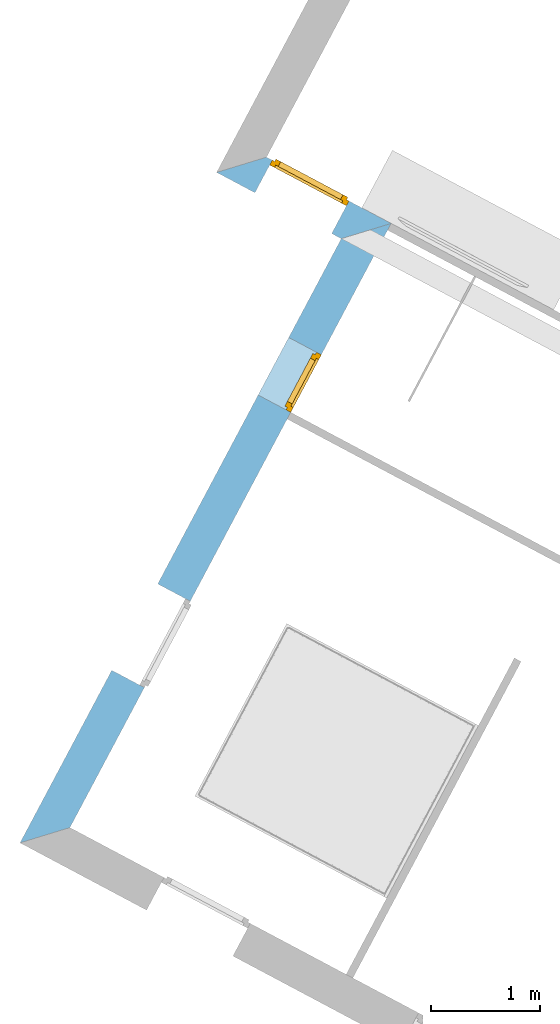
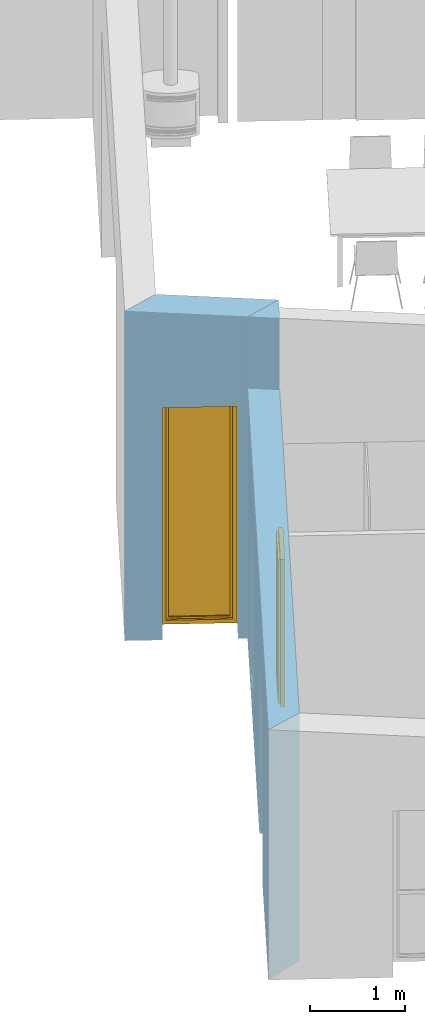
# One storey, part 8 of 27: 2 windows, 3 openings, plus 2 elements that do not belong to this part.
"""IFC2X3 building model written with IfcOpenShell, lengths in metres."""

from ifc_helpers import new_model, entity, si_unit, converted_unit, derived_unit, money_unit, direction, frame, origin_with_axes, origin_2d_with_axis, place, context, subcontext, project, spatial, polyline, rectangle, outline, extrude, clip, halfspace, bounded_halfspace, open_shell, faceted_brep, surface_model, material, layer, layer_set, layer_usage, type_object, element, fill, save


model = new_model("IFC2X3")

# Units and contexts
model_context = context("Model", 3, precision=1e-05, world=origin_with_axes(), true_north=direction((0.0, 1.0)))
body_context = subcontext(model_context, "Body", "Model", "MODEL_VIEW")
ifc_project = project(units=[si_unit("LENGTHUNIT", "METRE"), si_unit("AREAUNIT", "SQUARE_METRE"), si_unit("VOLUMEUNIT", "CUBIC_METRE"), converted_unit("PLANEANGLEUNIT", "DEGREE", entity("IfcPlaneAngleMeasure", 0.0174532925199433), si_unit("PLANEANGLEUNIT", "RADIAN"), dimensions=[0, 0, 0, 0, 0, 0, 0]), money_unit("CHF"), converted_unit("TIMEUNIT", "Year", entity("IfcTimeMeasure", 31557600.0), si_unit("TIMEUNIT", "SECOND"), dimensions=[0, 0, 1, 0, 0, 0, 0]), si_unit("MASSUNIT", "GRAM", prefix="KILO"), si_unit("THERMODYNAMICTEMPERATUREUNIT", "DEGREE_CELSIUS"), si_unit("LUMINOUSINTENSITYUNIT", "LUMEN"), si_unit("ENERGYUNIT", "JOULE", prefix="MEGA"), derived_unit("THERMALCONDUCTANCEUNIT", [(si_unit("POWERUNIT", "WATT"), 1), (si_unit("LENGTHUNIT", "METRE"), -1), (si_unit("THERMODYNAMICTEMPERATUREUNIT", "KELVIN"), -1)]), derived_unit("SPECIFICHEATCAPACITYUNIT", [(si_unit("ENERGYUNIT", "JOULE"), 1), (si_unit("MASSUNIT", "GRAM", prefix="KILO"), -1), (si_unit("THERMODYNAMICTEMPERATUREUNIT", "KELVIN"), -1)]), derived_unit("MASSDENSITYUNIT", [(si_unit("MASSUNIT", "GRAM", prefix="KILO"), 1), (si_unit("VOLUMEUNIT", "CUBIC_METRE"), -1)])], contexts=[model_context])

# Site, building, storey
site_placement = place(None, frame((0.0, 0.0, 0.0), z_axis=(0.0, 0.0, 1.0), x_axis=(-0.4694715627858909, -0.8829475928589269, 0.0)))
site = spatial("IfcSite", under=ifc_project, at=site_placement, Name="Site", CompositionType="ELEMENT")
building_placement = place(site_placement, origin_with_axes())
building = spatial("IfcBuilding", under=site, at=building_placement, Name="Bâtiment", CompositionType="ELEMENT")
storey_placement = place(building_placement, origin_with_axes())
storey = spatial("IfcBuildingStorey", under=building, at=storey_placement, Name="RDC", CompositionType="ELEMENT", Elevation=0.0)

# Wall, openings, window
ifc_material_1 = material(Name="Maçonnerie 290464332")
ifc_layer_1 = layer(ifc_material_1, 0.2, ventilated="UNKNOWN")
ifc_material_2 = material(Name="Isolation 272048125")
ifc_layer_2 = layer(ifc_material_2, 0.14, ventilated="UNKNOWN")
ifc_layer_set = layer_set([ifc_layer_1, ifc_layer_2], Name="MUR EXT 34 0024849982")
ifc_layer_usage_1 = layer_usage(ifc_layer_set, "AXIS2", "NEGATIVE", 0.0)
wall_type = type_object("IfcWallType", Name="MUR EXT 34 0024849982 340", PredefinedType="NOTDEFINED")
wall_1_placement = place(storey_placement, frame((149.8295710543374, -835.89459910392, 0.0), z_axis=(0.0, 0.0, 1.0), x_axis=(-1.0, 0.0, 0.0)))
wall_1 = element("IfcWallStandardCase", 1, at=wall_1_placement, inside=storey, type_object=wall_type, material=ifc_layer_usage_1, Name="Mur-394", context=body_context, shape_type="Clipping", body=[
    clip(clip(clip(extrude(outline(polyline([(0.3400000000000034, -0.3400000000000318), (6.640000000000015, -0.3400000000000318), (6.300000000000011, 0.0), (0.0, 0.0), (0.3400000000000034, -0.3400000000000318)])), origin_with_axes(), (0.0, 0.0, 1.0), 5.0), bounded_halfspace(frame((0.0, -0.2565977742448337, 3.207472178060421), z_axis=(0.0, 0.07974522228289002, -0.9968152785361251), x_axis=(0.0, 0.9968152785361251, 0.07974522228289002)), True, origin_with_axes(), polyline([(-0.1000099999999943, -0.3500000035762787), (6.300000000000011, -0.3500000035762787), (6.300000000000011, 0.01), (-0.1000099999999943, 0.01), (-0.1000099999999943, -0.3500000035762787)]))), bounded_halfspace(frame((0.0, -0.2565977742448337, 3.207472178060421), z_axis=(0.0, 0.07974522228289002, -0.9968152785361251), x_axis=(0.0, 0.9968152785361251, 0.07974522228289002)), True, origin_with_axes(), polyline([(-0.1000099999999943, -0.3500000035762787), (6.300000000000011, -0.3500000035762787), (6.300000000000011, 0.01), (-0.1000099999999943, 0.01), (-0.1000099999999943, -0.3500000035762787)]))), bounded_halfspace(frame((0.0, -0.32972972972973, 4.121621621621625), z_axis=(0.0, 0.07974522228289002, -0.9968152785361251), x_axis=(0.0, 0.9968152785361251, 0.07974522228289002)), True, origin_with_axes(), polyline([(6.200000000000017, -0.3500000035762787), (16.24001000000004, -0.3500000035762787), (16.24001000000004, 0.01), (6.200000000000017, 0.01), (6.200000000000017, -0.3500000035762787)]))),
])
opening_1_placement = place(wall_1_placement, frame((4.9700049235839, 0.0, 0.25), z_axis=(0.0, 0.0, 1.0), x_axis=(1.0, 0.0, 0.0)))
opening_1 = element("IfcOpeningElement", 2, at=opening_1_placement, cuts=wall_1, Name="Fen-156", context=body_context, shape_type="SweptSolid", body=[
    extrude(rectangle(XDim=0.6000000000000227, YDim=1.9, at=origin_2d_with_axis()), frame((0.0, 0.3400000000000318, 0.95), z_axis=(0.0, 1.0, 0.0), x_axis=(1.0, 0.0, 0.0)), (0.0, 0.0, -1.0), 1.02),
])
opening_2_placement = place(wall_1_placement, frame((2.250000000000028, 0.0, 0.0), z_axis=(0.0, 0.0, 1.0), x_axis=(1.0, 0.0, 0.0)))
element("IfcOpeningElement", 3, at=opening_2_placement, cuts=wall_1, Name="Fen-155", context=body_context, shape_type="SweptSolid", body=[
    extrude(rectangle(XDim=0.8999999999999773, YDim=2.15, at=origin_2d_with_axis()), frame((0.0, 0.3400000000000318, 1.075), z_axis=(0.0, -1.0, 0.0), x_axis=(1.0, 0.0, 0.0)), (0.0, 0.0, 1.0), 1.02),
])
window_style_1 = type_object("IfcWindowStyle", Name="Fen à carreaux 10", ConstructionType="NOTDEFINED", OperationType="SINGLE_PANEL", ParameterTakesPrecedence=False, Sizeable=False)
window_1_placement = place(opening_1_placement, frame((0.3000000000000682, 0.0, 0.0), z_axis=(0.0, 0.0, 1.0), x_axis=(-1.0, 0.0, 0.0)))
window_1 = element("IfcWindow", 4, at=window_1_placement, inside=storey, type_object=window_style_1, Name="Fen-156", OverallHeight=1.9, OverallWidth=0.6, context=body_context, shape_type="SurfaceModel", body=[
    faceted_brep([(0.575000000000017, 0.2900000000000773, 1.85), (0.6000000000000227, 0.2900000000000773, 1.85), (0.6000000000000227, 0.3400000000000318, 1.85), (0.5500000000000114, 0.3400000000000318, 1.85), (0.5500000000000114, 0.3150000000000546, 1.85), (0.575000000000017, 0.3150000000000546, 1.85), (0.575000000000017, 0.2900000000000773, 0.05000000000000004), (0.6000000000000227, 0.2900000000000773, 0.05000000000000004), (0.6000000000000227, 0.3400000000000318, 0.05000000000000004), (0.5500000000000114, 0.3400000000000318, 0.05000000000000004), (0.5500000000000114, 0.3150000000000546, 0.05000000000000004), (0.575000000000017, 0.3150000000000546, 0.05000000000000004)], [[[0, 1, 2, 3, 4, 5]], [[6, 7, 1, 0]], [[1, 7, 8, 2]], [[3, 2, 8, 9]], [[4, 3, 9, 10]], [[10, 11, 5, 4]], [[5, 11, 6, 0]], [[11, 10, 9, 8, 7, 6]]]),
    faceted_brep([(0.05000000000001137, 0.3150000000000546, 1.85), (0.05000000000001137, 0.3400000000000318, 1.85), (0.0, 0.3400000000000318, 1.85), (0.0, 0.2900000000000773, 1.85), (0.02500000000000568, 0.2900000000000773, 1.85), (0.02500000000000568, 0.3150000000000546, 1.85), (0.05000000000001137, 0.3150000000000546, 0.05000000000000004), (0.05000000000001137, 0.3400000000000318, 0.05000000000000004), (0.0, 0.3400000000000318, 0.05000000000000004), (0.0, 0.2900000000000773, 0.05000000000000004), (0.02500000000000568, 0.2900000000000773, 0.05000000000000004), (0.02500000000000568, 0.3150000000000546, 0.05000000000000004)], [[[0, 1, 2, 3, 4, 5]], [[6, 7, 1, 0]], [[2, 1, 7, 8]], [[9, 3, 2, 8]], [[4, 3, 9, 10]], [[10, 11, 5, 4]], [[5, 11, 6, 0]], [[11, 10, 9, 8, 7, 6]]]),
    faceted_brep([(0.575000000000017, 0.2900000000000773, 1.85), (0.6000000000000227, 0.2900000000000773, 1.85), (0.6000000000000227, 0.2900000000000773, 1.9), (0.0, 0.2900000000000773, 1.9), (0.0, 0.2900000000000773, 1.85), (0.02500000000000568, 0.2900000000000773, 1.85), (0.02500000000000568, 0.2900000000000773, 1.875), (0.575000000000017, 0.2900000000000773, 1.875), (0.575000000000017, 0.3150000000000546, 1.85), (0.5500000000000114, 0.3150000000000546, 1.85), (0.5500000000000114, 0.3400000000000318, 1.85), (0.6000000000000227, 0.3400000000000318, 1.85), (0.6000000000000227, 0.3400000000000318, 1.9), (0.0, 0.3400000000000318, 1.9), (0.0, 0.3400000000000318, 1.85), (0.02500000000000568, 0.3150000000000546, 1.85), (0.05000000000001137, 0.3400000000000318, 1.85), (0.05000000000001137, 0.3150000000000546, 1.85), (0.02500000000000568, 0.3150000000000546, 1.875), (0.575000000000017, 0.3150000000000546, 1.875)], [[[0, 1, 2, 3, 4, 5, 6, 7]], [[8, 9, 10, 11, 1, 0]], [[2, 1, 11, 12]], [[3, 2, 12, 13]], [[4, 3, 13, 14]], [[15, 5, 4, 14, 16, 17]], [[5, 15, 18, 6]], [[6, 18, 19, 7]], [[7, 19, 8, 0]], [[17, 9, 8, 19, 18, 15]], [[17, 16, 10, 9]], [[10, 16, 14, 13, 12, 11]]]),
    faceted_brep([(0.05000000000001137, 0.3150000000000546, 0.05000000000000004), (0.05000000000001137, 0.3400000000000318, 0.05000000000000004), (0.0, 0.3400000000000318, 0.05000000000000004), (0.0, 0.2900000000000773, 0.05000000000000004), (0.02500000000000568, 0.2900000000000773, 0.05000000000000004), (0.02500000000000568, 0.3150000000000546, 0.05000000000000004), (0.5500000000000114, 0.3150000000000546, 0.05000000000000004), (0.5500000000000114, 0.3400000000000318, 0.05000000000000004), (0.0, 0.3400000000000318, 0.0), (0.6000000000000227, 0.3400000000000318, 0.05000000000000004), (0.6000000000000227, 0.3400000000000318, 0.0), (0.0, 0.2900000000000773, 0.0), (0.575000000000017, 0.2900000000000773, 0.02500000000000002), (0.02500000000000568, 0.2900000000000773, 0.02500000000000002), (0.6000000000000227, 0.2900000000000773, 0.0), (0.6000000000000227, 0.2900000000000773, 0.05000000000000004), (0.575000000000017, 0.2900000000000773, 0.05000000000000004), (0.02500000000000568, 0.3150000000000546, 0.02500000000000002), (0.575000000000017, 0.3150000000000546, 0.02500000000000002), (0.575000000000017, 0.3150000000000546, 0.05000000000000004)], [[[0, 1, 2, 3, 4, 5]], [[6, 7, 1, 0]], [[8, 2, 1, 7, 9, 10]], [[11, 3, 2, 8]], [[12, 13, 4, 3, 11, 14, 15, 16]], [[13, 17, 5, 4]], [[5, 17, 18, 19, 6, 0]], [[19, 16, 15, 9, 7, 6]], [[15, 14, 10, 9]], [[14, 11, 8, 10]], [[12, 18, 17, 13]], [[19, 18, 12, 16]]]),
    surface_model("IfcShellBasedSurfaceModel", [(0.5250000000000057, 0.3000000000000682, 0.07500000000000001), (0.07500000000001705, 0.3000000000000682, 0.07500000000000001), (0.07500000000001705, 0.3000000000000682, 0.6000000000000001), (0.5250000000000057, 0.3000000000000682, 0.6000000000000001)], [open_shell([[[0, 1, 2, 3]]])]),
    surface_model("IfcShellBasedSurfaceModel", [(0.5250000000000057, 0.2800000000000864, 0.07500000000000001), (0.5250000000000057, 0.2800000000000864, 0.6000000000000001), (0.07500000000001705, 0.2800000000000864, 0.6000000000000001), (0.07500000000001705, 0.2800000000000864, 0.07500000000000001)], [open_shell([[[0, 1, 2, 3]]])]),
    surface_model("IfcShellBasedSurfaceModel", [(0.5250000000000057, 0.3000000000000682, 0.65), (0.07500000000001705, 0.3000000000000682, 0.65), (0.07500000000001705, 0.3000000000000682, 1.825), (0.5250000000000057, 0.3000000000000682, 1.825)], [open_shell([[[0, 1, 2, 3]]])]),
    surface_model("IfcShellBasedSurfaceModel", [(0.5250000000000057, 0.2800000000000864, 0.65), (0.5250000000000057, 0.2800000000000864, 1.825), (0.07500000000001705, 0.2800000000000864, 1.825), (0.07500000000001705, 0.2800000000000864, 0.65)], [open_shell([[[0, 1, 2, 3]]])]),
    faceted_brep([(0.5250000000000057, 0.3150000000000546, 0.07500000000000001), (0.5250000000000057, 0.2649999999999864, 0.07500000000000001), (0.5250000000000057, 0.2649999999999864, 1.825), (0.5250000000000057, 0.3150000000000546, 1.825), (0.575000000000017, 0.3150000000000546, 0.07500000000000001), (0.575000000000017, 0.2649999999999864, 0.07500000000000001), (0.575000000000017, 0.2649999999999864, 1.825), (0.575000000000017, 0.3150000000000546, 1.825)], [[[0, 1, 2, 3]], [[4, 5, 1, 0]], [[1, 5, 6, 2]], [[3, 2, 6, 7]], [[0, 3, 7, 4]], [[7, 6, 5, 4]]]),
    faceted_brep([(0.02500000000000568, 0.3150000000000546, 0.07500000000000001), (0.02500000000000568, 0.2649999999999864, 0.07500000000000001), (0.02500000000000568, 0.2649999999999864, 1.825), (0.02500000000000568, 0.3150000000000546, 1.825), (0.07500000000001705, 0.3150000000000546, 0.07500000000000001), (0.07500000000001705, 0.2649999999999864, 0.07500000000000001), (0.07500000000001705, 0.2649999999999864, 1.825), (0.07500000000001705, 0.3150000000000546, 1.825)], [[[0, 1, 2, 3]], [[4, 5, 1, 0]], [[1, 5, 6, 2]], [[3, 2, 6, 7]], [[0, 3, 7, 4]], [[7, 6, 5, 4]]]),
    faceted_brep([(0.5250000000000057, 0.3150000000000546, 0.65), (0.5250000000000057, 0.2649999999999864, 0.65), (0.5250000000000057, 0.2649999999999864, 0.6), (0.5250000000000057, 0.3150000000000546, 0.6), (0.07500000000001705, 0.3150000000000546, 0.65), (0.07500000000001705, 0.2649999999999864, 0.65), (0.07500000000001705, 0.2649999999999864, 0.6), (0.07500000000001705, 0.3150000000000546, 0.6)], [[[0, 1, 2, 3]], [[4, 5, 1, 0]], [[1, 5, 6, 2]], [[3, 2, 6, 7]], [[0, 3, 7, 4]], [[7, 6, 5, 4]]]),
    faceted_brep([(0.575000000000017, 0.3150000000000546, 0.02500000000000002), (0.575000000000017, 0.2649999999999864, 0.02500000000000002), (0.02500000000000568, 0.2649999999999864, 0.02500000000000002), (0.02500000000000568, 0.3150000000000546, 0.02500000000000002), (0.575000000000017, 0.3150000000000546, 0.07500000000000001), (0.575000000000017, 0.2649999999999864, 0.07500000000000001), (0.5250000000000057, 0.2649999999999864, 0.07500000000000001), (0.07500000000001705, 0.2649999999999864, 0.07500000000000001), (0.02500000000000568, 0.2649999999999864, 0.07500000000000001), (0.02500000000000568, 0.3150000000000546, 0.07500000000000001), (0.07500000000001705, 0.3150000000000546, 0.07500000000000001), (0.5250000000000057, 0.3150000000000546, 0.07500000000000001)], [[[0, 1, 2, 3]], [[4, 5, 1, 0]], [[1, 5, 6, 7, 8, 2]], [[3, 2, 8, 9]], [[0, 3, 9, 10, 11, 4]], [[11, 6, 5, 4]], [[10, 7, 6, 11]], [[9, 8, 7, 10]]]),
    faceted_brep([(0.575000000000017, 0.3150000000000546, 1.825), (0.575000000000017, 0.2649999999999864, 1.825), (0.5250000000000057, 0.2649999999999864, 1.825), (0.5250000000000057, 0.3150000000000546, 1.825), (0.575000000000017, 0.3150000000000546, 1.875), (0.575000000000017, 0.2649999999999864, 1.875), (0.02500000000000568, 0.2649999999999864, 1.875), (0.02500000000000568, 0.2649999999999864, 1.825), (0.07500000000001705, 0.2649999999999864, 1.825), (0.07500000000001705, 0.3150000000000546, 1.825), (0.02500000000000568, 0.3150000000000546, 1.825), (0.02500000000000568, 0.3150000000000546, 1.875)], [[[0, 1, 2, 3]], [[4, 5, 1, 0]], [[1, 5, 6, 7, 8, 2]], [[3, 2, 8, 9]], [[0, 3, 9, 10, 11, 4]], [[11, 6, 5, 4]], [[10, 7, 6, 11]], [[9, 8, 7, 10]]]),
])
fill(opening_1, window_1)

# Wall, opening, window
ifc_layer_usage_2 = layer_usage(ifc_layer_set, "AXIS2", "POSITIVE", 0.0)
wall_2_placement = place(storey_placement, frame((143.5295710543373, -837.1945991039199, 0.0), z_axis=(0.0, 0.0, 1.0), x_axis=(0.0, 1.0, 0.0)))
wall_2 = element("IfcWallStandardCase", 5, at=wall_2_placement, inside=storey, type_object=wall_type, material=ifc_layer_usage_2, Name="Mur-390", context=body_context, shape_type="Clipping", body=[
    clip(extrude(outline(polyline([(0.0, 0.0), (1.299999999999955, 0.0), (1.639999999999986, 0.3400000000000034), (0.3400000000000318, 0.3400000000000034), (0.0, 0.0)])), origin_with_axes(), (0.0, 0.0, 1.0), 5.0), halfspace(frame((0.3379968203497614, 0.0, 4.224960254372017), z_axis=(-0.07974522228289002, 0.0, -0.9968152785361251), x_axis=(0.0, 1.0, 0.0)), True)),
])
opening_3_placement = place(wall_2_placement, frame((0.7999999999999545, 0.0, 0.0), z_axis=(0.0, 0.0, 1.0), x_axis=(1.0, 0.0, 0.0)))
opening_3 = element("IfcOpeningElement", 6, at=opening_3_placement, cuts=wall_2, Name="Fen-155", context=body_context, shape_type="SweptSolid", body=[
    extrude(rectangle(XDim=0.7999999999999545, YDim=3.0, at=origin_2d_with_axis()), frame((0.0, -0.3400000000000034, 1.5), z_axis=(0.0, -1.0, 0.0), x_axis=(1.0, 0.0, 0.0)), (0.0, 0.0, -1.0), 1.02),
])
window_style_2 = type_object("IfcWindowStyle", Name="Fen châssis simple 10", ConstructionType="NOTDEFINED", OperationType="SINGLE_PANEL", ParameterTakesPrecedence=False, Sizeable=False)
window_2_placement = place(opening_3_placement, frame((0.3999999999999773, 0.0, 0.0), z_axis=(0.0, 0.0, 1.0), x_axis=(-1.0, 0.0, 0.0)))
window_2 = element("IfcWindow", 7, at=window_2_placement, inside=storey, type_object=window_style_2, Name="Fen-155", OverallHeight=3.0, OverallWidth=0.8, context=body_context, shape_type="SurfaceModel", body=[
    faceted_brep([(0.75, -0.3400000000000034, 2.95), (0.7999999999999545, -0.3400000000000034, 2.95), (0.7999999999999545, -0.289999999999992, 2.95), (0.75, -0.289999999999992, 2.95), (0.75, -0.3400000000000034, 0.05000000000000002), (0.7999999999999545, -0.3400000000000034, 0.05000000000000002), (0.7999999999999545, -0.289999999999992, 0.05000000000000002), (0.75, -0.289999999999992, 0.05000000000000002)], [[[0, 1, 2, 3]], [[4, 5, 1, 0]], [[1, 5, 6, 2]], [[2, 6, 7, 3]], [[4, 0, 3, 7]], [[5, 4, 7, 6]]]),
    faceted_brep([(0.04999999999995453, -0.3400000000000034, 0.05000000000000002), (0.0, -0.3400000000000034, 0.05000000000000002), (0.0, -0.289999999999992, 0.05000000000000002), (0.04999999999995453, -0.289999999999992, 0.05000000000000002), (0.04999999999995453, -0.3400000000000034, 2.95), (0.0, -0.3400000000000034, 2.95), (0.0, -0.289999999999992, 2.95), (0.04999999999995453, -0.289999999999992, 2.95)], [[[0, 1, 2, 3]], [[4, 5, 1, 0]], [[1, 5, 6, 2]], [[2, 6, 7, 3]], [[4, 0, 3, 7]], [[5, 4, 7, 6]]]),
    faceted_brep([(0.04999999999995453, -0.3400000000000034, 2.95), (0.0, -0.3400000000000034, 2.95), (0.0, -0.289999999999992, 2.95), (0.04999999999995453, -0.289999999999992, 2.95), (0.75, -0.3400000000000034, 2.95), (0.7999999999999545, -0.3400000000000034, 2.95), (0.7999999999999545, -0.3400000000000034, 3.0), (0.0, -0.3400000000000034, 3.0), (0.0, -0.289999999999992, 3.0), (0.7999999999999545, -0.289999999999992, 3.0), (0.7999999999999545, -0.289999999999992, 2.95), (0.75, -0.289999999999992, 2.95)], [[[0, 1, 2, 3]], [[4, 5, 6, 7, 1, 0]], [[1, 7, 8, 2]], [[2, 8, 9, 10, 11, 3]], [[4, 0, 3, 11]], [[5, 4, 11, 10]], [[6, 5, 10, 9]], [[7, 6, 9, 8]]]),
    faceted_brep([(0.75, -0.3400000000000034, 0.05000000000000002), (0.7999999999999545, -0.3400000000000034, 0.05000000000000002), (0.7999999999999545, -0.289999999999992, 0.05000000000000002), (0.75, -0.289999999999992, 0.05000000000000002), (0.04999999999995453, -0.3400000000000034, 0.05000000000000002), (0.0, -0.3400000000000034, 0.05000000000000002), (0.0, -0.3400000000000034, 0.0), (0.7999999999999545, -0.3400000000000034, 0.0), (0.7999999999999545, -0.289999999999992, 0.0), (0.0, -0.289999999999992, 0.0), (0.0, -0.289999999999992, 0.05000000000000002), (0.04999999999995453, -0.289999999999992, 0.05000000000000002)], [[[0, 1, 2, 3]], [[4, 5, 6, 7, 1, 0]], [[1, 7, 8, 2]], [[2, 8, 9, 10, 11, 3]], [[4, 0, 3, 11]], [[5, 4, 11, 10]], [[6, 5, 10, 9]], [[7, 6, 9, 8]]]),
    faceted_brep([(0.07499999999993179, -0.3149999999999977, 0.075), (0.07499999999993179, -0.3149999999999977, 2.925), (0.07499999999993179, -0.3649999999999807, 2.925), (0.07499999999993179, -0.3649999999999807, 0.075), (0.02499999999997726, -0.3149999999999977, 0.075), (0.02499999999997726, -0.3149999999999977, 2.925), (0.02499999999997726, -0.3649999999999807, 2.925), (0.02499999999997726, -0.3649999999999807, 0.075)], [[[0, 1, 2, 3]], [[0, 4, 5, 1]], [[1, 5, 6, 2]], [[3, 2, 6, 7]], [[4, 0, 3, 7]], [[5, 4, 7, 6]]]),
    faceted_brep([(0.7749999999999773, -0.3149999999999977, 0.075), (0.7749999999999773, -0.3149999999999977, 2.925), (0.7749999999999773, -0.3649999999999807, 2.925), (0.7749999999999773, -0.3649999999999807, 0.075), (0.7250000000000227, -0.3149999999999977, 0.075), (0.7250000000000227, -0.3149999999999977, 2.925), (0.7250000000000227, -0.3649999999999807, 2.925), (0.7250000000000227, -0.3649999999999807, 0.075)], [[[0, 1, 2, 3]], [[0, 4, 5, 1]], [[1, 5, 6, 2]], [[3, 2, 6, 7]], [[4, 0, 3, 7]], [[5, 4, 7, 6]]]),
    faceted_brep([(0.7749999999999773, -0.3149999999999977, 0.02499999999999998), (0.7749999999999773, -0.3149999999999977, 0.075), (0.7749999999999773, -0.3649999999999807, 0.075), (0.7749999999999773, -0.3649999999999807, 0.02499999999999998), (0.02499999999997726, -0.3149999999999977, 0.02499999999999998), (0.02499999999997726, -0.3149999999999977, 0.075), (0.07499999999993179, -0.3149999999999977, 0.075), (0.7250000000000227, -0.3149999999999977, 0.075), (0.7250000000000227, -0.3649999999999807, 0.075), (0.07499999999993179, -0.3649999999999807, 0.075), (0.02499999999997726, -0.3649999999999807, 0.075), (0.02499999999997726, -0.3649999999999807, 0.02499999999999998)], [[[0, 1, 2, 3]], [[0, 4, 5, 6, 7, 1]], [[1, 7, 8, 2]], [[3, 2, 8, 9, 10, 11]], [[4, 0, 3, 11]], [[5, 4, 11, 10]], [[6, 5, 10, 9]], [[7, 6, 9, 8]]]),
    faceted_brep([(0.02499999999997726, -0.3149999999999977, 2.975), (0.02499999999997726, -0.3149999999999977, 2.925), (0.02499999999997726, -0.3649999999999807, 2.925), (0.02499999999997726, -0.3649999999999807, 2.975), (0.7749999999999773, -0.3149999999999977, 2.975), (0.7749999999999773, -0.3149999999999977, 2.925), (0.7250000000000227, -0.3149999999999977, 2.925), (0.07499999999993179, -0.3149999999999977, 2.925), (0.07499999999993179, -0.3649999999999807, 2.925), (0.7250000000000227, -0.3649999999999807, 2.925), (0.7749999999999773, -0.3649999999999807, 2.925), (0.7749999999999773, -0.3649999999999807, 2.975)], [[[0, 1, 2, 3]], [[0, 4, 5, 6, 7, 1]], [[1, 7, 8, 2]], [[3, 2, 8, 9, 10, 11]], [[4, 0, 3, 11]], [[5, 4, 11, 10]], [[6, 5, 10, 9]], [[7, 6, 9, 8]]]),
    surface_model("IfcShellBasedSurfaceModel", [(0.07499999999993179, -0.3299999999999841, 0.075), (0.07499999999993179, -0.3299999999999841, 2.925), (0.7250000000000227, -0.3299999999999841, 2.925), (0.7250000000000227, -0.3299999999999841, 0.075)], [open_shell([[[0, 1, 2, 3]]])]),
    surface_model("IfcShellBasedSurfaceModel", [(0.07499999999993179, -0.3499999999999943, 0.075), (0.7250000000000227, -0.3499999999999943, 0.075), (0.7250000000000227, -0.3499999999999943, 2.925), (0.07499999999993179, -0.3499999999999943, 2.925)], [open_shell([[[0, 1, 2, 3]]])]),
])
fill(opening_3, window_2)

save(model, "model.ifc")
